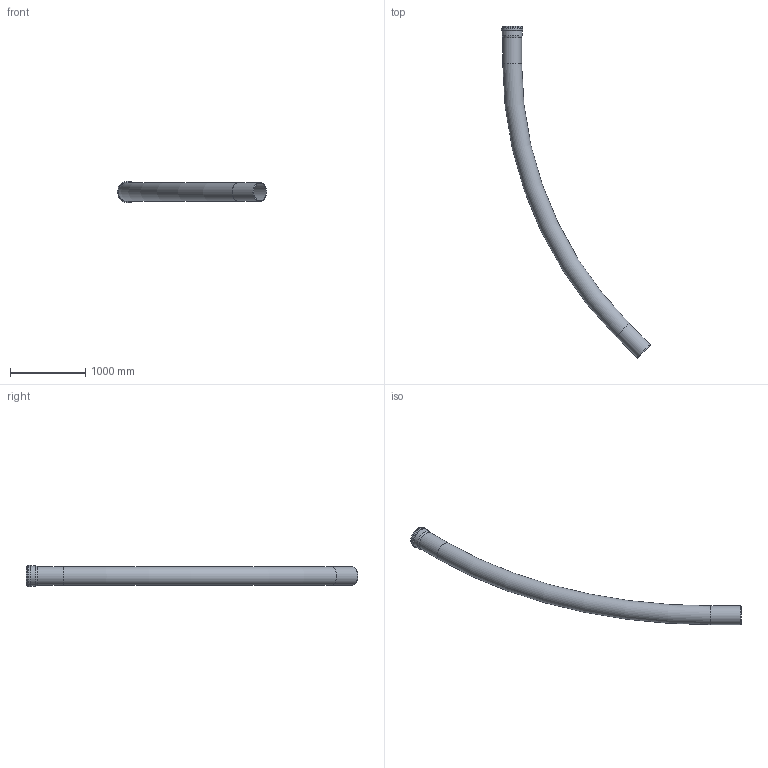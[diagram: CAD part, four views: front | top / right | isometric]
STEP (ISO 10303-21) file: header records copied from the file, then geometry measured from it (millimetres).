
FILE_DESCRIPTION(/* description */ (''),/* implementation_level */ '2;1');
FILE_NAME(/* name */ 'Y:\ACad-Dateien\Ostendorf\KG2000 e-line Kabelschutz\734270 - KG2000 e-line Kabelschutz Bogenrohr DN_OD 250x7,7 SN10 45° R=5000 PP-MD\734270 - KG2000 e-line Kabelschutz Bogenrohr DN_OD 250x7,7 SN10 45° R=5000 PP-MD.stp',/* time_stamp */ '2026-08-10T14:12:29+02:00',/* author */ ('LWM'),/* organization */ (''),/* preprocessor_version */ 'ST-DEVELOPER v18.1',/* originating_system */ 'Autodesk Inventor 2021',/* authorisation */ '');
FILE_SCHEMA (('CONFIG_CONTROL_DESIGN'));
Length unit declared in the file: millimetre
Products named in the file (1): 734270 - KG2000 e-line Kabelschutz Bogenrohr DN_OD 250x7,7 SN10 15°
 R=5000 PP-MD
Bounding box: 1976.78 x 4398.25 x 285.2 mm (x, y, z)
Volume: 28269603.4 mm3; surface area: 7393310 mm2
Topology: 1 solids, 1 shells, 39 faces, 130 edges, 96 vertices
Faces by surface type: torus 16, cylinder 10, cone 8, plane 5
Full cylindrical faces by diameter (mm): 234.6 x2, 250 x2, 250.4 x1, 251 x1, 262 x1, 265 x1, 273.6 x1, 285.2 x1
Entity records: 1611 total; most frequent: DIRECTION 322, CARTESIAN_POINT 266, ORIENTED_EDGE 260, AXIS2_PLACEMENT_3D 152, EDGE_CURVE 130, CIRCLE 112, VERTEX_POINT 96, EDGE_LOOP 44
